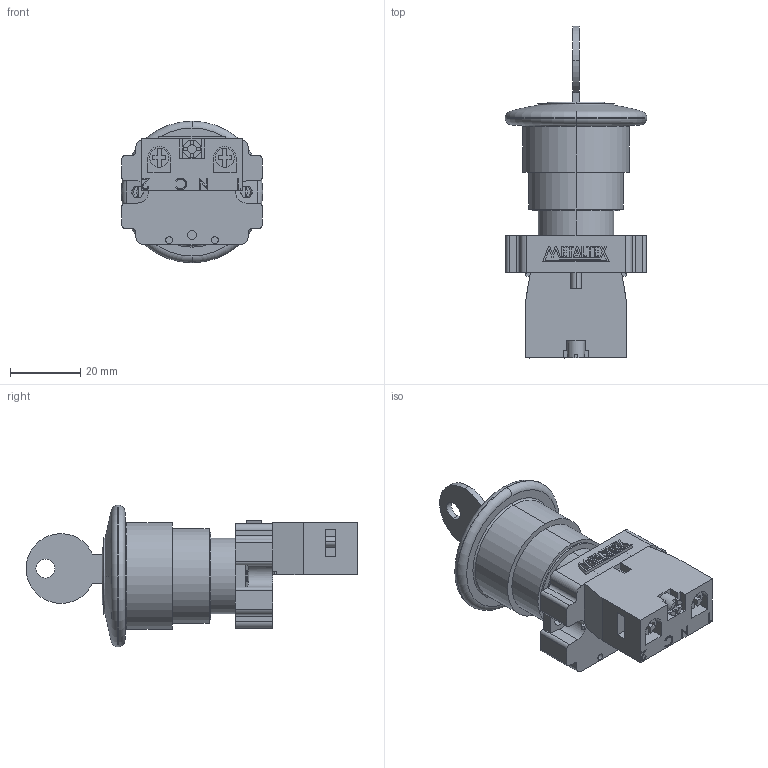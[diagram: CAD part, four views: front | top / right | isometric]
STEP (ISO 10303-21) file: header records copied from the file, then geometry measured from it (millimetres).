
FILE_DESCRIPTION (( 'STEP AP203' ), '1' );
FILE_NAME ('M20ACR-R-1B.STEP', '2019-01-25T16:56:13', ( '' ), ( '' ), 'SwSTEP 2.0', 'SolidWorks 2012', '' );
FILE_SCHEMA (( 'CONFIG_CONTROL_DESIGN' ));
Length unit declared in the file: millimetre
Products named in the file (5): M20ACR-R-1B; METALTEX 18,98; M20-1B; Base do bloco; M20ACR
Assembly tree (4 placements, depth 2):
  M20ACR-R-1B
    M20ACR
    Base do bloco
    M20-1B
    METALTEX 18,98
Bounding box: 40.4 x 94.75 x 40.4 mm (x, y, z)
Volume: 46303.4 mm3; surface area: 14710.7 mm2
Topology: 10 solids, 10 shells, 374 faces, 971 edges, 644 vertices
Faces by surface type: plane 265, cylinder 78, bspline 15, torus 12, sphere 4
Entity records: 12840 total; most frequent: CARTESIAN_POINT 3035, ORIENTED_EDGE 1942, DIRECTION 1881, EDGE_CURVE 971, LINE 717, VECTOR 717, VERTEX_POINT 644, AXIS2_PLACEMENT_3D 582
